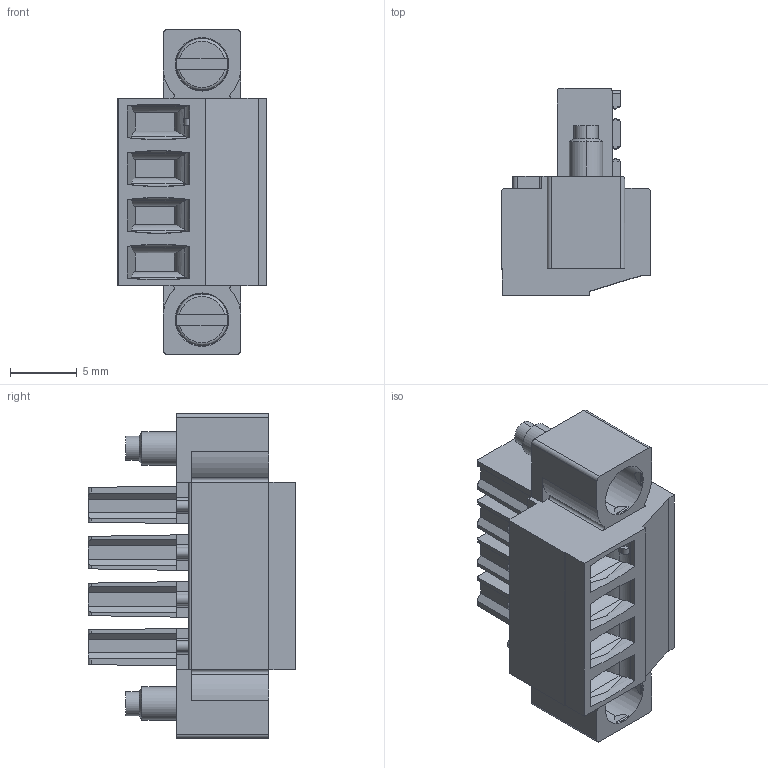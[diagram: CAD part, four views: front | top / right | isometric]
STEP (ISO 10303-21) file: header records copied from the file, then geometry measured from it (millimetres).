
FILE_DESCRIPTION((''),'2;1');
FILE_NAME('CONN_CONT_4_POS_MINI_CMBCN','2007-01-25T',('chrisj'),(''),'PRO/ENGINEER BY PARAMETRIC TECHNOLOGY CORPORATION, 2006080','PRO/ENGINEER BY PARAMETRIC TECHNOLOGY CORPORATION, 2006080','');
FILE_SCHEMA(('AUTOMOTIVE_DESIGN_CC2 { 1 2 10303 214 -1 1 5 2 }'));
Length unit declared in the file: inch
Products named in the file (1): CONN_CONT_4_POS_MINI_CMBCN
Bounding box: 11.1 x 15.5 x 24.3 mm (x, y, z)
Volume: 1666.9 mm3; surface area: 2013.5 mm2
Topology: 3 solids, 3 shells, 532 faces, 1391 edges, 890 vertices
Faces by surface type: plane 254, cylinder 182, torus 56, cone 40
Entity records: 17193 total; most frequent: CARTESIAN_POINT 4168, ORIENTED_EDGE 2782, DIRECTION 2623, EDGE_CURVE 1391, AXIS2_PLACEMENT_3D 918, VERTEX_POINT 890, VECTOR 787, LINE 787
